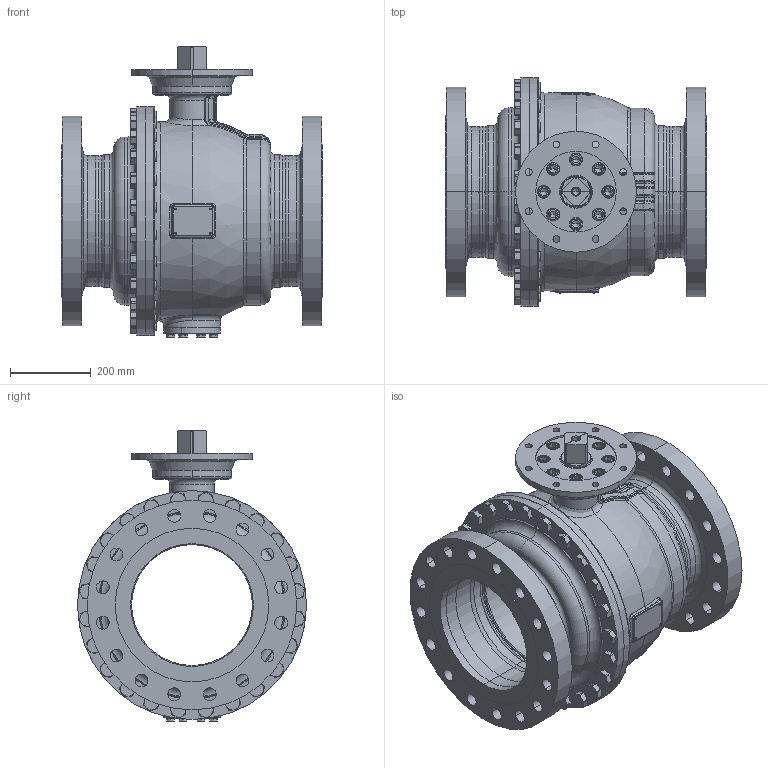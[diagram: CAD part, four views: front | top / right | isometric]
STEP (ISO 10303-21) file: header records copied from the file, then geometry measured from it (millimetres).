
FILE_DESCRIPTION((''),'2;1');
FILE_NAME('KHI-F_300-CL300-F25-4_SW0001','2026-02-05T15:11:02',('fischerkl'),('KLINGER'),'CREO PARAMETRIC BY PTC INC, 2023014','CREO PARAMETRIC BY PTC INC, 2023014','');
FILE_SCHEMA(('CONFIG_CONTROL_DESIGN'));
Products named in the file (1): KHI-F_300-CL300-F25-4_SW0001
Bounding box: 648 x 568 x 721.8 mm (x, y, z)
Volume: 37768196.7 mm3; surface area: 4878406.9 mm2
Topology: 1 solids, 4 shells, 3398 faces, 8608 edges, 5381 vertices
Faces by surface type: plane 1738, cylinder 775, cone 448, torus 297, bspline 111, sphere 29
Entity records: 144555 total; most frequent: CARTESIAN_POINT 63777, ORIENTED_EDGE 17164, DIRECTION 16560, EDGE_CURVE 8582, AXIS2_PLACEMENT_3D 6318, VERTEX_POINT 5381, VECTOR 3924, LINE 3924
